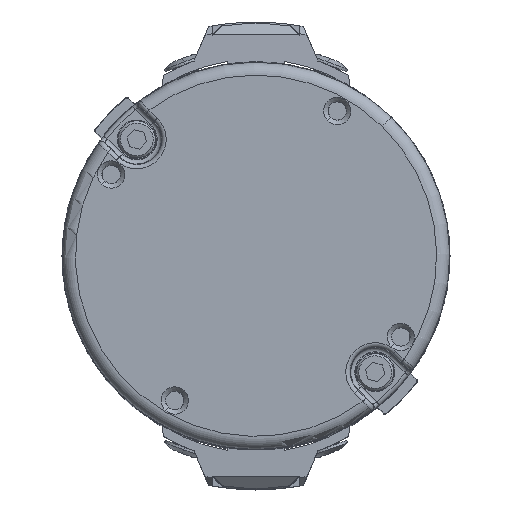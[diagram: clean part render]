
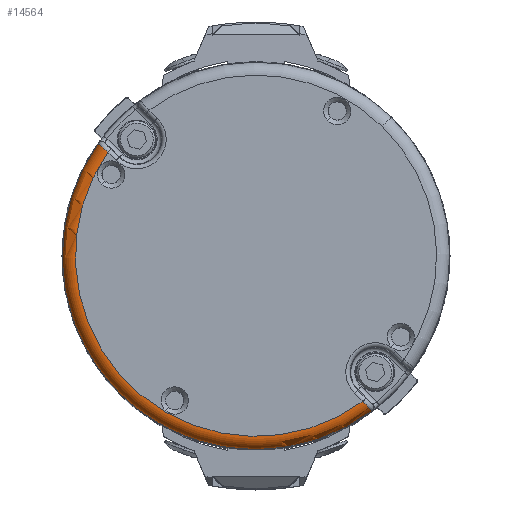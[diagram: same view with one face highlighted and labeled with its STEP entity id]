
A CAD part, top view. The second image highlights one B-rep face of the part: STEP entity #14564.
In plain terms, the highlighted toroidal (fillet/blend) face has major radius 41.42 mm and minor radius 3 mm.
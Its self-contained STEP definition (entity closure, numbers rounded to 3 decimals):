
#9 = VERTEX_POINT ( 'NONE', #10773 ) ;
#411 = AXIS2_PLACEMENT_3D ( 'NONE', #8672, #19652, #6618 ) ;
#755 = CARTESIAN_POINT ( 'NONE',  ( -34.534, 24.237, 142.006 ) ) ;
#1054 = CIRCLE ( 'NONE', #3360, 41.42 ) ;
#1353 = CARTESIAN_POINT ( 'NONE',  ( 26.606, -35.543, 139.518 ) ) ;
#1575 = TOROIDAL_SURFACE ( 'NONE', #411, 41.42, 3. ) ;
#2189 = CARTESIAN_POINT ( 'NONE',  ( 0., 0., 142.1 ) ) ;
#2669 = CARTESIAN_POINT ( 'NONE',  ( -34.676, 24.363, 141.949 ) ) ;
#2908 = CARTESIAN_POINT ( 'NONE',  ( 26.092, -35.017, 141.096 ) ) ;
#3023 = CARTESIAN_POINT ( 'NONE',  ( 25.9, -34.815, 141.37 ) ) ;
#3360 = AXIS2_PLACEMENT_3D ( 'NONE', #2189, #9603, #5710 ) ;
#3526 = EDGE_CURVE ( 'NONE', #9, #17840, #8742, .T. ) ;
#3916 = CARTESIAN_POINT ( 'NONE',  ( -35.32, 24.937, 141.496 ) ) ;
#4487 = CARTESIAN_POINT ( 'NONE',  ( 26.333, -35.268, 140.62 ) ) ;
#4745 = CARTESIAN_POINT ( 'NONE',  ( -36.137, 25.683, 139.913 ) ) ;
#4863 = CARTESIAN_POINT ( 'NONE',  ( 24.815, -33.653, 142.1 ) ) ;
#4984 = CARTESIAN_POINT ( 'NONE',  ( 26.18, -35.109, 140.943 ) ) ;
#5710 = DIRECTION ( 'NONE',  ( 0.698, 0.716, 0. ) ) ;
#5750 = CARTESIAN_POINT ( 'NONE',  ( -33.952, 23.725, 142.1 ) ) ;
#5866 = CARTESIAN_POINT ( 'NONE',  ( -36.197, 25.748, 139.126 ) ) ;
#6589 = ORIENTED_EDGE ( 'NONE', *, *, #3526, .T. ) ;
#6618 = DIRECTION ( 'NONE',  ( 0.698, 0.716, 0. ) ) ;
#7615 = EDGE_LOOP ( 'NONE', ( #9648, #6589, #22666, #23556, #20312 ) ) ;
#8137 = CARTESIAN_POINT ( 'NONE',  ( -35.436, 25.04, 141.371 ) ) ;
#8249 = CARTESIAN_POINT ( 'NONE',  ( 26.398, -35.335, 140.449 ) ) ;
#8494 = CARTESIAN_POINT ( 'NONE',  ( 26.548, -35.487, 139.899 ) ) ;
#8496 = CARTESIAN_POINT ( 'NONE',  ( -34.247, 23.984, 142.081 ) ) ;
#8672 = CARTESIAN_POINT ( 'NONE',  ( 0., 0., 139.1 ) ) ;
#8742 = B_SPLINE_CURVE_WITH_KNOTS ( 'NONE', 3,
 ( #19592, #14199, #1353, #8494, #19473, #8249, #4487, #4984, #2908, #3023, #21415, #10440, #12367, #13967, #4863, #13704 ),
 .UNSPECIFIED., .F., .F.,
 ( 4, 2, 2, 2, 2, 2, 2, 4 ),
 ( 0., 0.001, 0.001, 0.002, 0.002, 0.003, 0.004, 0.005 ),
 .UNSPECIFIED. ) ;
#9518 = CARTESIAN_POINT ( 'NONE',  ( -36.197, 25.742, 139.522 ) ) ;
#9603 = DIRECTION ( 'NONE',  ( 0., 0., 1. ) ) ;
#9617 = AXIS2_PLACEMENT_3D ( 'NONE', #22269, #13239, #16950 ) ;
#9648 = ORIENTED_EDGE ( 'NONE', *, *, #19482, .F. ) ;
#9723 = VERTEX_POINT ( 'NONE', #9828 ) ;
#9828 = CARTESIAN_POINT ( 'NONE',  ( -33.952, 23.725, 142.1 ) ) ;
#10440 = CARTESIAN_POINT ( 'NONE',  ( 25.571, -34.465, 141.709 ) ) ;
#10579 = EDGE_CURVE ( 'NONE', #9723, #14530, #22170, .T. ) ;
#10773 = CARTESIAN_POINT ( 'NONE',  ( 26.625, -35.557, 139.126 ) ) ;
#11335 = CARTESIAN_POINT ( 'NONE',  ( -35.969, 25.526, 140.451 ) ) ;
#11462 = FACE_OUTER_BOUND ( 'NONE', #7615, .T. ) ;
#11641 = EDGE_CURVE ( 'NONE', #9723, #17840, #1054, .T. ) ;
#11710 = CARTESIAN_POINT ( 'NONE',  ( -36.197, 25.748, 139.126 ) ) ;
#12367 = CARTESIAN_POINT ( 'NONE',  ( 25.451, -34.337, 141.801 ) ) ;
#12423 = EDGE_CURVE ( 'NONE', #22889, #14530, #19994, .T. ) ;
#12930 = CARTESIAN_POINT ( 'NONE',  ( -31.024, -31.791, 139.126 ) ) ;
#13155 = CARTESIAN_POINT ( 'NONE',  ( -35.643, 25.227, 141.098 ) ) ;
#13239 = DIRECTION ( 'NONE',  ( 0., 0., -1. ) ) ;
#13565 = DIRECTION ( 'NONE',  ( 0., 0., -1. ) ) ;
#13704 = CARTESIAN_POINT ( 'NONE',  ( 24.548, -33.363, 142.1 ) ) ;
#13833 = CARTESIAN_POINT ( 'NONE',  ( -35.899, 25.461, 140.625 ) ) ;
#13967 = CARTESIAN_POINT ( 'NONE',  ( 25.082, -33.942, 142.022 ) ) ;
#14199 = CARTESIAN_POINT ( 'NONE',  ( 26.622, -35.557, 139.324 ) ) ;
#14530 = VERTEX_POINT ( 'NONE', #11710 ) ;
#14564 = ADVANCED_FACE ( 'NONE', ( #11462 ), #1575, .T. ) ;
#15513 = CARTESIAN_POINT ( 'NONE',  ( -35.735, 25.312, 140.948 ) ) ;
#16950 = DIRECTION ( 'NONE',  ( 0.698, 0.716, 0. ) ) ;
#17049 = CARTESIAN_POINT ( 'NONE',  ( 0., 0., 139.126 ) ) ;
#17840 = VERTEX_POINT ( 'NONE', #18386 ) ;
#18386 = CARTESIAN_POINT ( 'NONE',  ( 24.548, -33.363, 142.1 ) ) ;
#18659 = CARTESIAN_POINT ( 'NONE',  ( -34.948, 24.604, 141.801 ) ) ;
#19473 = CARTESIAN_POINT ( 'NONE',  ( 26.506, -35.445, 140.089 ) ) ;
#19482 = EDGE_CURVE ( 'NONE', #9, #22889, #23006, .T. ) ;
#19592 = CARTESIAN_POINT ( 'NONE',  ( 26.625, -35.557, 139.126 ) ) ;
#19652 = DIRECTION ( 'NONE',  ( 0., 0., 1. ) ) ;
#19994 = CIRCLE ( 'NONE', #9617, 44.42 ) ;
#20312 = ORIENTED_EDGE ( 'NONE', *, *, #12423, .F. ) ;
#21167 = CARTESIAN_POINT ( 'NONE',  ( -35.077, 24.719, 141.71 ) ) ;
#21415 = CARTESIAN_POINT ( 'NONE',  ( 25.796, -34.704, 141.492 ) ) ;
#22170 = B_SPLINE_CURVE_WITH_KNOTS ( 'NONE', 3,
 ( #5750, #23102, #8496, #755, #2669, #18659, #21167, #3916, #8137, #13155, #15513, #13833, #11335, #4745, #9518, #5866 ),
 .UNSPECIFIED., .F., .F.,
 ( 4, 2, 2, 2, 2, 2, 2, 4 ),
 ( 0., 0.001, 0.001, 0.002, 0.002, 0.003, 0.004, 0.005 ),
 .UNSPECIFIED. ) ;
#22230 = AXIS2_PLACEMENT_3D ( 'NONE', #17049, #13565, #22479 ) ;
#22269 = CARTESIAN_POINT ( 'NONE',  ( 0., 0., 139.126 ) ) ;
#22479 = DIRECTION ( 'NONE',  ( 0.698, 0.716, 0. ) ) ;
#22666 = ORIENTED_EDGE ( 'NONE', *, *, #11641, .F. ) ;
#22889 = VERTEX_POINT ( 'NONE', #12930 ) ;
#23006 = CIRCLE ( 'NONE', #22230, 44.42 ) ;
#23102 = CARTESIAN_POINT ( 'NONE',  ( -34.101, 23.856, 142.1 ) ) ;
#23556 = ORIENTED_EDGE ( 'NONE', *, *, #10579, .T. ) ;
